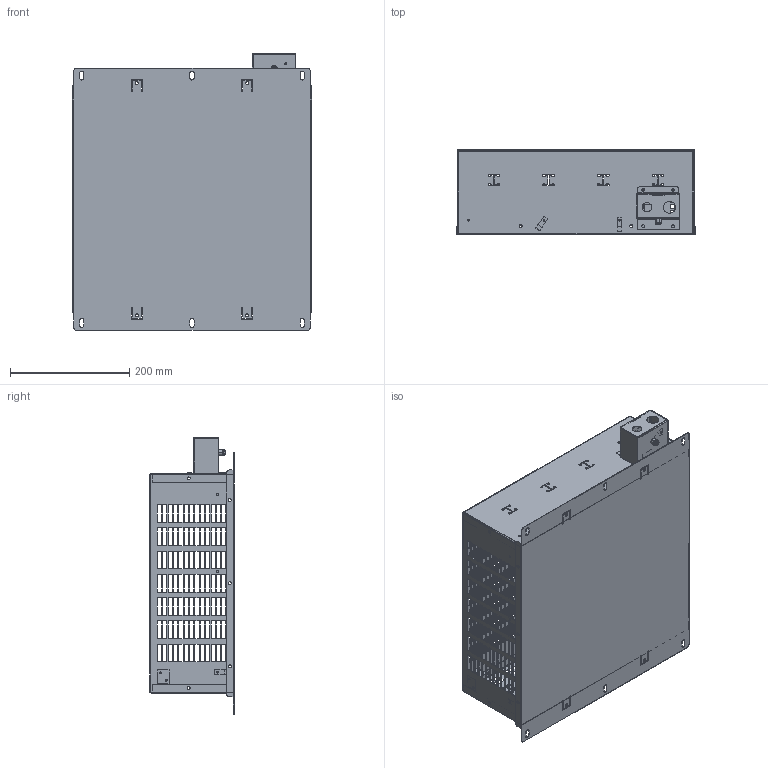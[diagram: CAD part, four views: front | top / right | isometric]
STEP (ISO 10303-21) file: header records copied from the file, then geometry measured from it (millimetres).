
FILE_DESCRIPTION(/* description */ (''),/* implementation_level */ '2;1');
FILE_NAME(/* name */ 'C:\_Vault\Dati\CATALOGO\RME\CT MARZO 2015\Assieme3-4L\Assieme4L.stp',/* time_stamp */ '2017-11-10T10:20:12+01:00',/* author */ ('Diego'),/* organization */ ('Fairfild Srl'),/* preprocessor_version */ 'ST-DEVELOPER v16.5',/* originating_system */ 'Autodesk Inventor 2017',/* authorisation */ '');
FILE_SCHEMA (('CONFIG_CONTROL_DESIGN'));
Products named in the file (1): Assieme RME04L
Bounding box: 400.9 x 141.1 x 464.3 mm (x, y, z)
Volume: 484398.9 mm3; surface area: 944896.6 mm2
Topology: 1 solids, 1 shells, 4012 faces, 11615 edges, 7731 vertices
Faces by surface type: plane 3142, bspline 640, cylinder 221, cone 8, torus 1
Full cylindrical faces by diameter (mm): 3 x1, 3.2 x13, 3.3 x2, 3.5 x4, 4.2 x3, 4.5 x3, 5 x43, 6 x1, 6.5 x1, 7.5 x1, 16 x1, 19 x1, 20 x1
Entity records: 139343 total; most frequent: CARTESIAN_POINT 31591, ORIENTED_EDGE 23028, DIRECTION 17436, EDGE_CURVE 11514, LINE 9742, VECTOR 9742, VERTEX_POINT 7708, EDGE_LOOP 5438
